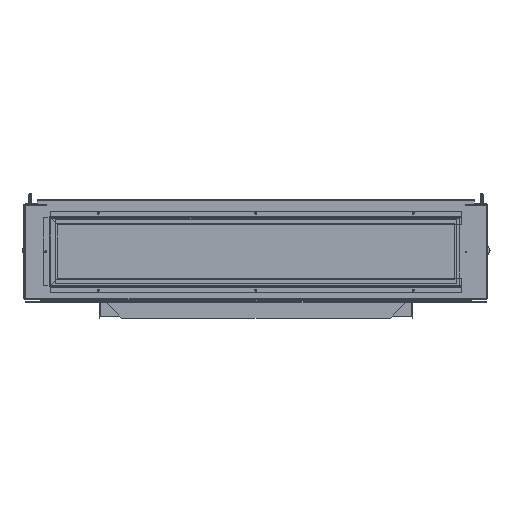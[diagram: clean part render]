
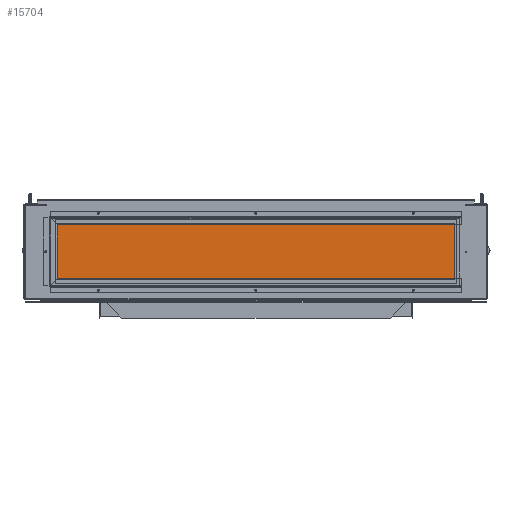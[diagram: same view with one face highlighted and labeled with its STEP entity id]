
A CAD part, front view. The second image highlights one B-rep face of the part: STEP entity #15704.
In plain terms, the highlighted planar face has unit normal (0, -1, 0).
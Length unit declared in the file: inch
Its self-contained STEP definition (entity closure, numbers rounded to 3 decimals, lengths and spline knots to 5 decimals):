
#5080 = CARTESIAN_POINT ( 'NONE',  ( 1.96339, -33.14741, 7.18674 ) ) ;
#14673 = LINE ( 'NONE', #90093, #50567 ) ;
#15704 = ADVANCED_FACE ( 'NONE', ( #138347 ), #142039, .F. ) ;
#15979 = ORIENTED_EDGE ( 'NONE', *, *, #91228, .F. ) ;
#17767 = CARTESIAN_POINT ( 'NONE',  ( -17.03661, -33.14741, 9.87424 ) ) ;
#20550 = DIRECTION ( 'NONE',  ( -1., 0., 0. ) ) ;
#26067 = CARTESIAN_POINT ( 'NONE',  ( 20.96339, -33.14742, 4.49924 ) ) ;
#26776 = VERTEX_POINT ( 'NONE', #58140 ) ;
#30089 = DIRECTION ( 'NONE',  ( 0., 0., 1. ) ) ;
#30117 = CARTESIAN_POINT ( 'NONE',  ( 20.96339, -33.14742, 9.87424 ) ) ;
#30142 = VERTEX_POINT ( 'NONE', #73440 ) ;
#32340 = EDGE_CURVE ( 'NONE', #30142, #26776, #173884, .T. ) ;
#33083 = DIRECTION ( 'NONE',  ( 1., 0., 0. ) ) ;
#33985 = EDGE_CURVE ( 'NONE', #196210, #188864, #153286, .T. ) ;
#36282 = VECTOR ( 'NONE', #135522, 39.37008 ) ;
#45399 = CARTESIAN_POINT ( 'NONE',  ( -17.03661, -33.14741, 9.87424 ) ) ;
#50567 = VECTOR ( 'NONE', #138145, 39.37008 ) ;
#58140 = CARTESIAN_POINT ( 'NONE',  ( -17.03661, -33.14741, 9.87424 ) ) ;
#73440 = CARTESIAN_POINT ( 'NONE',  ( -17.03661, -33.14741, 4.49924 ) ) ;
#84738 = VECTOR ( 'NONE', #33083, 39.37008 ) ;
#86410 = EDGE_CURVE ( 'NONE', #26776, #196210, #89541, .T. ) ;
#89541 = LINE ( 'NONE', #17767, #84738 ) ;
#90093 = CARTESIAN_POINT ( 'NONE',  ( -17.03661, -33.14741, 4.49924 ) ) ;
#91228 = EDGE_CURVE ( 'NONE', #188864, #30142, #14673, .T. ) ;
#92718 = VECTOR ( 'NONE', #30089, 39.37008 ) ;
#97553 = ORIENTED_EDGE ( 'NONE', *, *, #32340, .F. ) ;
#106631 = ORIENTED_EDGE ( 'NONE', *, *, #86410, .F. ) ;
#111905 = DIRECTION ( 'NONE',  ( 0., 1., 0. ) ) ;
#115124 = CARTESIAN_POINT ( 'NONE',  ( 20.96339, -33.14742, 9.87424 ) ) ;
#131482 = ORIENTED_EDGE ( 'NONE', *, *, #33985, .F. ) ;
#135522 = DIRECTION ( 'NONE',  ( 0., 0., -1. ) ) ;
#138145 = DIRECTION ( 'NONE',  ( -1., 0., 0. ) ) ;
#138347 = FACE_OUTER_BOUND ( 'NONE', #169098, .T. ) ;
#142039 = PLANE ( 'NONE',  #163025 ) ;
#153286 = LINE ( 'NONE', #30117, #36282 ) ;
#163025 = AXIS2_PLACEMENT_3D ( 'NONE', #5080, #111905, #20550 ) ;
#169098 = EDGE_LOOP ( 'NONE', ( #131482, #106631, #97553, #15979 ) ) ;
#173884 = LINE ( 'NONE', #45399, #92718 ) ;
#188864 = VERTEX_POINT ( 'NONE', #26067 ) ;
#196210 = VERTEX_POINT ( 'NONE', #115124 ) ;
